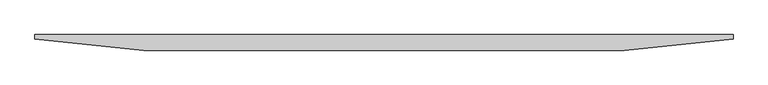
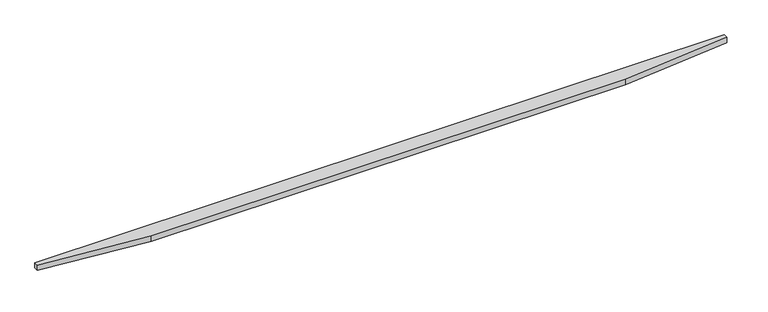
"""IFC4 building model written with IfcOpenShell, lengths in millimetres: proxy geometry, FOUNDATION^TABLE 5_60x180 BASE KEELS-KEEL 2."""

from ifc_helpers import new_model, si_unit, frame, origin, place, context, project, spatial, polyline, outline, extrude, source, transform, mapped, element, save


def generic_models_024ccd00(model_context):
    return source(origin(), model_context, "Body", "SweptSolid", [
        extrude(outline(polyline([(4267.2, 0.0), (4267.2, -25.4), (3649.6706832, -88.9), (922.3293168, -88.9), (304.8, -25.4), (304.8, 0.0), (4267.2, 0.0)])), frame((0.0, 0.0, -1066.8), z_axis=(0.0, 0.0, 1.0), x_axis=(1.0, 0.0, 0.0)), (0.0, 0.0, 1.0), 31.75),
    ])


if __name__ == "__main__":
    model = new_model("IFC4")
    model_context = context("Model", 3, world=origin())
    ifc_project = project(units=[si_unit("LENGTHUNIT", "METRE", prefix="MILLI")], contexts=[model_context])
    site = spatial("IfcSite", under=ifc_project)
    building = spatial("IfcBuilding", under=site)
    placement = place(None, origin())
    generic_models_shape = generic_models_024ccd00(model_context)
    element("IfcBuildingElementProxy", 1, Name="FOUNDATION^TABLE 5_60x180 BASE KEELS-KEEL 2", ObjectType="FOUNDATION^TABLE 5_60x180 BASE KEELS-KEEL 2", at=placement, inside=building, context=model_context, shape_type="MappedRepresentation", body=[
        mapped(generic_models_shape, transform((0.0, 0.0, 0.0), x_axis=(1.0, 0.0, 0.0), y_axis=(0.0, 1.0, 0.0), z_axis=(0.0, 0.0, 1.0))),
    ])
    save(model, "model.ifc")
